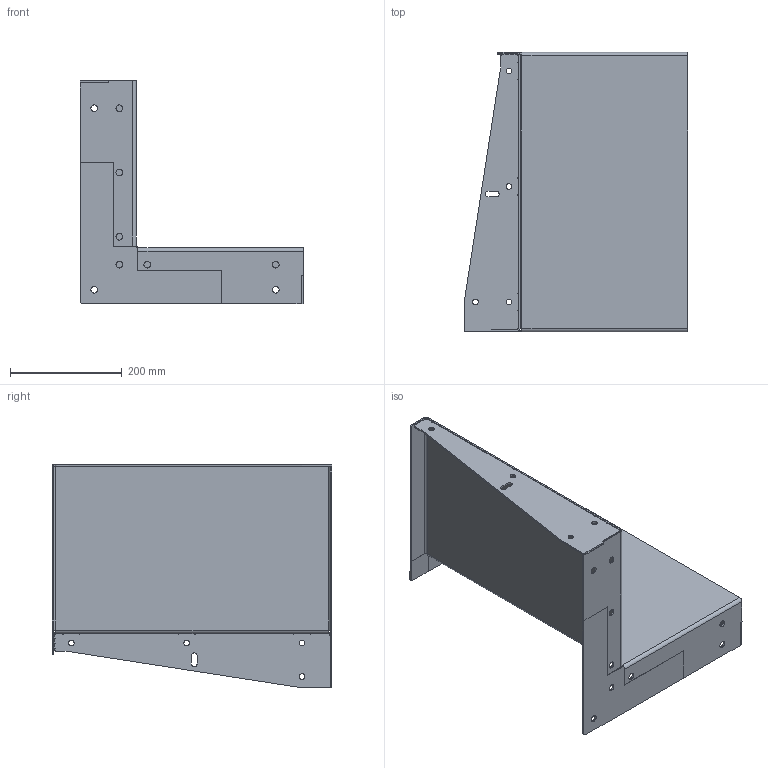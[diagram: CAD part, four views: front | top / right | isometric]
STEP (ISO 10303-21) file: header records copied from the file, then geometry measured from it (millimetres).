
FILE_DESCRIPTION (( 'STEP AP203' ), '1' );
FILE_NAME ('INV CORNER.STEP', '2026-03-31T11:57:35', ( '' ), ( '' ), 'SwSTEP 2.0', 'SolidWorks 2025', '' );
FILE_SCHEMA (( 'CONFIG_CONTROL_DESIGN' ));
Length unit declared in the file: millimetre
Products named in the file (5): INV CORNER; BASE INFILL^INV CORNER; PLANTER WALL^INV CORNER; GS2; TOP CORNER INFILL^INV CORNER
Assembly tree (5 placements, depth 2):
  INV CORNER
    PLANTER WALL^INV CORNER
    BASE INFILL^INV CORNER
    TOP CORNER INFILL^INV CORNER
    GS2  x2
Bounding box: 400 x 500 x 400 mm (x, y, z)
Volume: 1358260.2 mm3; surface area: 926192.1 mm2
Topology: 5 solids, 5 shells, 180 faces, 470 edges, 300 vertices
Faces by surface type: plane 100, cylinder 80
Entity records: 4671 total; most frequent: DIRECTION 744, CARTESIAN_POINT 704, ORIENTED_EDGE 688, EDGE_CURVE 344, AXIS2_PLACEMENT_3D 256, VECTOR 232, LINE 232, VERTEX_POINT 216
